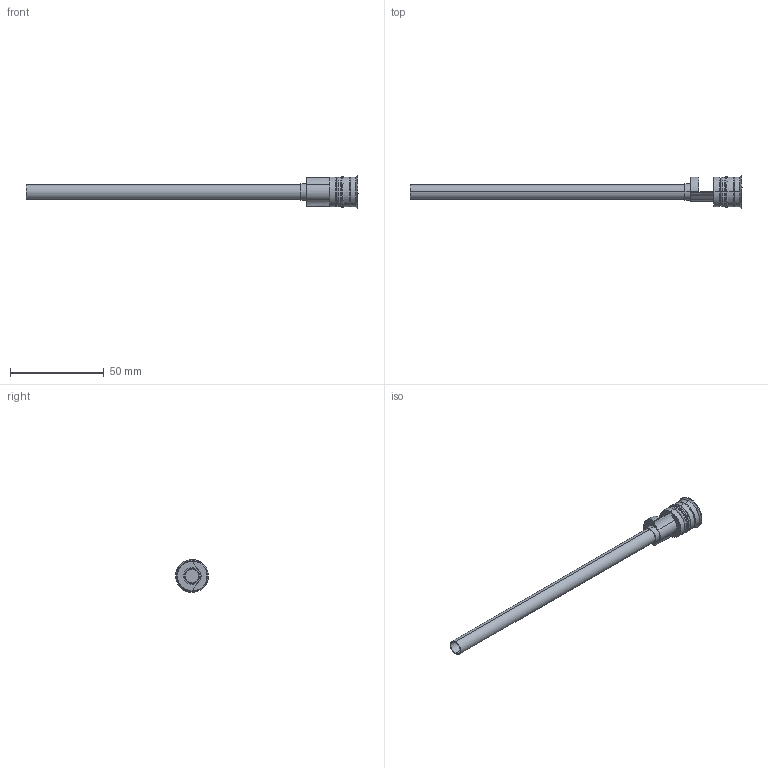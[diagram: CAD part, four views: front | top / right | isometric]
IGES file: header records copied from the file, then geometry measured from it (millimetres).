
Start section: START RECORD GO HERE.
Global section: file name: RF-16Fx150_8.igs; native system: DASSAULT SYSTEMES CATIA V5 R20 - www.3ds.com; preprocessor: CATIA Version 5 Release 20 ; author: Utente; organization: NB04-ASUS; date: 20210223.202917; units: millimetre
Bounding box: 177.5 x 17.5 x 17.5 mm (x, y, z)
Surface area: 9636.3 mm2 (no closed solid volume)
Topology: 0 solids, 0 shells, 74 faces, 416 edges, 416 vertices
Faces by surface type: revolution 47, plane 27
